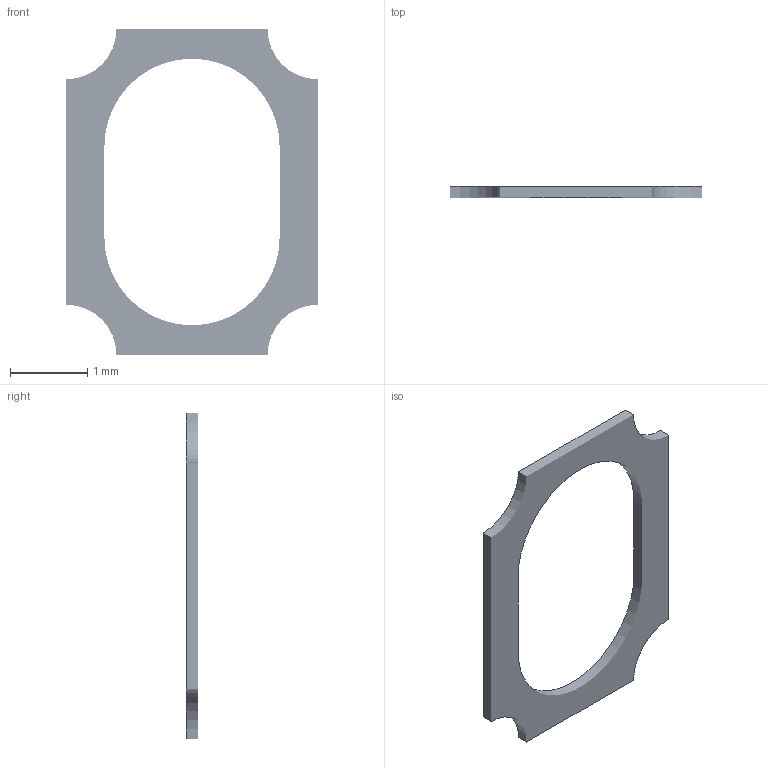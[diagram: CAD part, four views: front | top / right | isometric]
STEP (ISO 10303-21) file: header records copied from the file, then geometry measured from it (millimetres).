
FILE_DESCRIPTION(/* description */ ('STEP AP242 Edition 2','CAx-IF Rec.Pracs.---Representation and Presentation of Product Manufacturing Information (PMI)---4.0---2014-10-13','CAx-IF Rec.Pracs.---3D Tessellated Geometry---0.4---2014-09-14','2;1','CAx-IF Rec.Pracs.---User Defined Attributes---1.5---2016-08-15'),/* implementation_level */ '2;1');
FILE_NAME(/* name */ 'Assembly 1 - Part 76',/* time_stamp */ '2026-03-29T21:14:58Z',/* author */ (''),/* organization */ (''),/* preprocessor_version */ 'ST-DEVELOPER v20',/* originating_system */ 'ONSHAPE BY PTC INC, 1.212',/* authorisation */ ' ');
FILE_SCHEMA (('AP242_MANAGED_MODEL_BASED_3D_ENGINEERING_MIM_LF { 1 0 10303 442 3 1 4 }'));
Length unit declared in the file: metre
Products named in the file (1): Part 76
Bounding box: 3.24 x 0.15 x 4.2 mm (x, y, z)
Surface area: 14.7 mm2 (no closed solid volume)
Topology: 0 solids, 1 shells, 1 faces, 0 edges, 0 vertices
Faces by surface type: other 1
Entity records: 31 total; most frequent: DIRECTION 2, SHAPE_REPRESENTATION_RELATIONSHIP 1, TESSELLATED_SHAPE_REPRESENTATION 1, STYLED_ITEM 1, PRESENTATION_STYLE_ASSIGNMENT 1, SURFACE_STYLE_USAGE 1, SURFACE_SIDE_STYLE 1, SURFACE_STYLE_FILL_AREA 1
